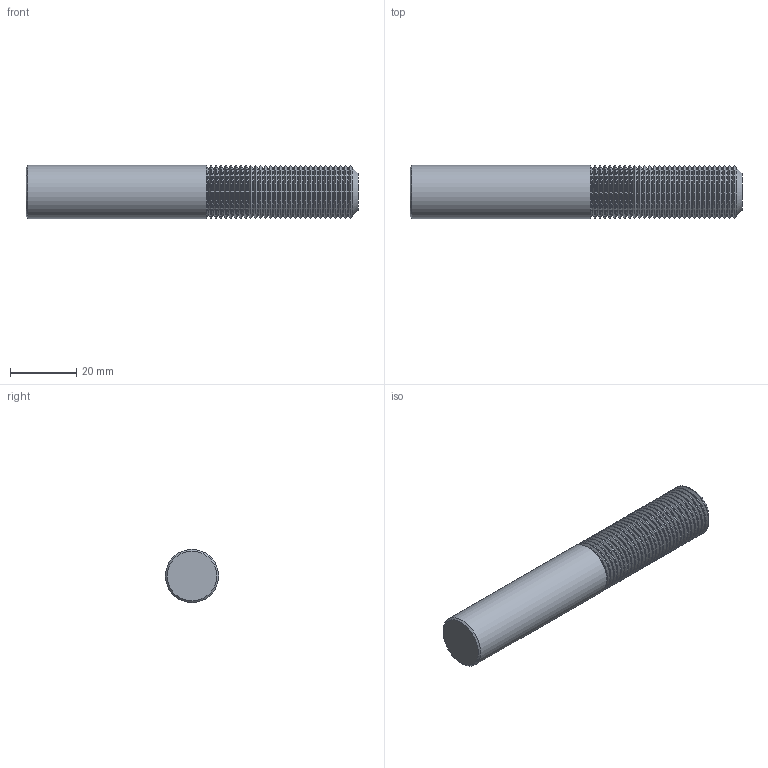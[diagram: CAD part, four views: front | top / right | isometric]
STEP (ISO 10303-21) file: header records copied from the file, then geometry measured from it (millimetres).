
FILE_DESCRIPTION(/* description */ (''),/* implementation_level */ '2;1');
FILE_NAME(/* name */ '00036392-TDM',/* time_stamp */ '2024-02-19T10:36:50+01:00',/* author */ (''),/* organization */ (''),/* preprocessor_version */ 'ST-DEVELOPER v16.5',/* originating_system */ 'HiCAD 2017 2201.0 Build 268',/* authorisation */ '');
FILE_SCHEMA (('AUTOMOTIVE_DESIGN { 1 0 10303 214 1 1 1 1 }'));
Length unit declared in the file: millimetre
Products named in the file (3): Root; ROTATIONSTEIL_0
Assembly tree (2 placements, depth 3):
  Root
    ROTATIONSTEIL_0
      ROTATIONSTEIL_0
Bounding box: 100 x 16 x 16 mm (x, y, z)
Volume: 18914 mm3; surface area: 6749.9 mm2
Topology: 2 solids, 2 shells, 185 faces, 366 edges, 185 vertices
Faces by surface type: cone 61, cylinder 61, torus 59, plane 4
Full cylindrical faces by diameter (mm): 14.344 x31, 15.95 x29, 16 x1
Entity records: 5574 total; most frequent: DIRECTION 744, CARTESIAN_POINT 555, AXIS2_PLACEMENT_3D 372, PRESENTATION_STYLE_ASSIGNMENT 368, COLOUR_RGB 368, DRAUGHTING_PRE_DEFINED_CURVE_FONT 366, CURVE_STYLE 366, OVER_RIDING_STYLED_ITEM 366
